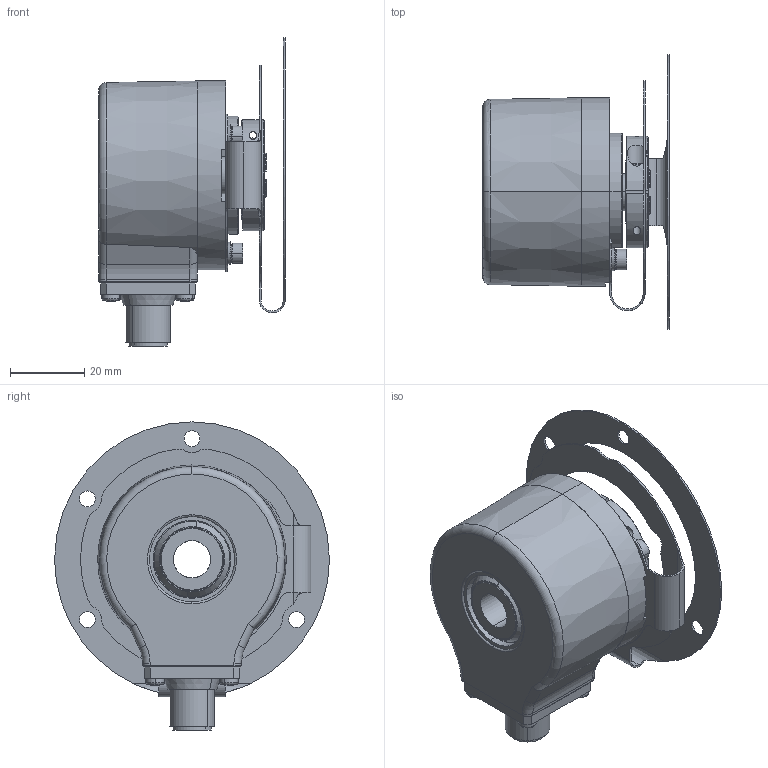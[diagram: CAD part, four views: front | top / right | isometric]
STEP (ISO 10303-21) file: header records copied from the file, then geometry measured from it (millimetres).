
FILE_DESCRIPTION (( 'STEP AP214' ), '1' );
FILE_NAME ('8.5020.83X2.XXXX.STEP', '2011-01-10T07:45:57', ( 'admin' ), ( 'Fritz Kübler GmbH' ), 'SwSTEP 2.0', 'SolidWorks 2009', '' );
FILE_SCHEMA (( 'AUTOMOTIVE_DESIGN' ));
Length unit declared in the file: millimetre
Products named in the file (1): 8.5020.83X2.XXXX
Bounding box: 50.2 x 74 x 83 mm (x, y, z)
Surface area: 23934.4 mm2 (no closed solid volume)
Topology: 0 solids, 26 shells, 370 faces, 1096 edges, 726 vertices
Faces by surface type: cylinder 151, plane 124, cone 47, sphere 24, torus 20, bspline 4
Entity records: 16768 total; most frequent: CARTESIAN_POINT 2823, DIRECTION 2202, ORIENTED_EDGE 1882, EDGE_CURVE 1060, AXIS2_PLACEMENT_3D 871, VERTEX_POINT 710, CIRCLE 504, VECTOR 460
